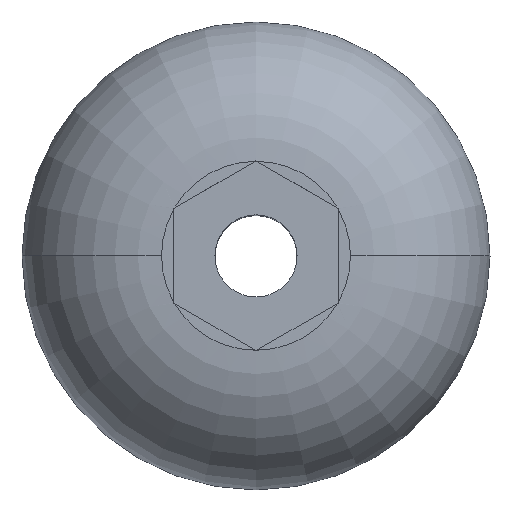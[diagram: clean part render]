
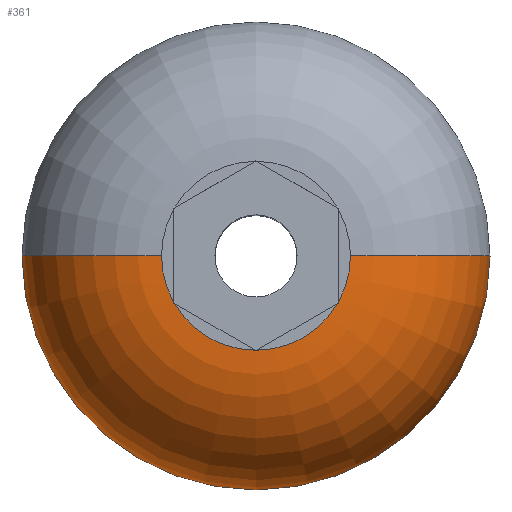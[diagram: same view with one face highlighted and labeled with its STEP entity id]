
A CAD part, top view. The second image highlights one B-rep face of the part: STEP entity #361.
In plain terms, the highlighted toroidal (fillet/blend) face has major radius 1.151 mm and minor radius 1.7 mm.
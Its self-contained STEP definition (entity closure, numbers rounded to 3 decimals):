
#20 = CIRCLE ( 'NONE', #1214, 1.151 ) ;
#27 = ORIENTED_EDGE ( 'NONE', *, *, #1088, .T. ) ;
#44 = DIRECTION ( 'NONE',  ( 0., 0., 1. ) ) ;
#46 = CARTESIAN_POINT ( 'NONE',  ( -1., -0.569, 1.65 ) ) ;
#54 = DIRECTION ( 'NONE',  ( -1., 0., 0. ) ) ;
#72 = VERTEX_POINT ( 'NONE', #117 ) ;
#76 = DIRECTION ( 'NONE',  ( 0., 1., 0. ) ) ;
#106 = CARTESIAN_POINT ( 'NONE',  ( 0.007, -1.151, 1.65 ) ) ;
#109 = VECTOR ( 'NONE', #1496, 1000. ) ;
#117 = CARTESIAN_POINT ( 'NONE',  ( -1., -0.569, 1.65 ) ) ;
#119 = ORIENTED_EDGE ( 'NONE', *, *, #223, .F. ) ;
#159 = B_SPLINE_CURVE_WITH_KNOTS ( 'NONE', 3,
 ( #1086, #321, #1265, #1622 ),
 .UNSPECIFIED., .F., .F.,
 ( 4, 4 ),
 ( 0., 0. ),
 .UNSPECIFIED. ) ;
#175 = AXIS2_PLACEMENT_3D ( 'NONE', #231, #363, #1126 ) ;
#185 = VERTEX_POINT ( 'NONE', #519 ) ;
#190 = VECTOR ( 'NONE', #736, 1000. ) ;
#219 = DIRECTION ( 'NONE',  ( 0., 0., 1. ) ) ;
#223 = EDGE_CURVE ( 'NONE', #1386, #331, #1334, .T. ) ;
#231 = CARTESIAN_POINT ( 'NONE',  ( 0., 0., 0. ) ) ;
#248 = DIRECTION ( 'NONE',  ( 0., 0., 1. ) ) ;
#274 = CARTESIAN_POINT ( 'NONE',  ( 0.993, -0.581, 1.65 ) ) ;
#287 = CARTESIAN_POINT ( 'NONE',  ( 1., -0.577, 1.65 ) ) ;
#288 = ORIENTED_EDGE ( 'NONE', *, *, #1593, .F. ) ;
#290 = CIRCLE ( 'NONE', #291, 1.7 ) ;
#291 = AXIS2_PLACEMENT_3D ( 'NONE', #834, #439, #1205 ) ;
#299 = DIRECTION ( 'NONE',  ( 0., 0., 1. ) ) ;
#321 = CARTESIAN_POINT ( 'NONE',  ( -0.002, -1.153, 1.65 ) ) ;
#331 = VERTEX_POINT ( 'NONE', #274 ) ;
#346 = VERTEX_POINT ( 'NONE', #429 ) ;
#349 = VERTEX_POINT ( 'NONE', #945 ) ;
#352 = CARTESIAN_POINT ( 'NONE',  ( 0., -1.155, 1.65 ) ) ;
#358 = AXIS2_PLACEMENT_3D ( 'NONE', #822, #299, #1207 ) ;
#361 = ADVANCED_FACE ( 'NONE', ( #1018 ), #415, .T. ) ;
#362 = ORIENTED_EDGE ( 'NONE', *, *, #1119, .F. ) ;
#363 = DIRECTION ( 'NONE',  ( 0., 0., 1. ) ) ;
#365 = DIRECTION ( 'NONE',  ( 1., 0., 0. ) ) ;
#367 = ORIENTED_EDGE ( 'NONE', *, *, #892, .F. ) ;
#368 = EDGE_CURVE ( 'NONE', #816, #346, #159, .T. ) ;
#377 = EDGE_CURVE ( 'NONE', #726, #448, #1547, .T. ) ;
#385 = CARTESIAN_POINT ( 'NONE',  ( 1., -0.577, 1.65 ) ) ;
#393 = ORIENTED_EDGE ( 'NONE', *, *, #679, .F. ) ;
#406 = CARTESIAN_POINT ( 'NONE',  ( -1., -0.571, 1.65 ) ) ;
#415 = TOROIDAL_SURFACE ( 'NONE', #358, 1.151, 1.7 ) ;
#419 = CARTESIAN_POINT ( 'NONE',  ( 2.85, 0., 0. ) ) ;
#429 = CARTESIAN_POINT ( 'NONE',  ( -0.007, -1.151, 1.65 ) ) ;
#434 = VECTOR ( 'NONE', #76, 1000. ) ;
#439 = DIRECTION ( 'NONE',  ( 0., -1., 0. ) ) ;
#442 = ORIENTED_EDGE ( 'NONE', *, *, #1077, .T. ) ;
#444 = CARTESIAN_POINT ( 'NONE',  ( 0.995, -0.58, 1.65 ) ) ;
#448 = VERTEX_POINT ( 'NONE', #615 ) ;
#467 = EDGE_CURVE ( 'NONE', #529, #185, #998, .T. ) ;
#519 = CARTESIAN_POINT ( 'NONE',  ( 1.151, 0., 1.65 ) ) ;
#524 = ORIENTED_EDGE ( 'NONE', *, *, #804, .T. ) ;
#525 = AXIS2_PLACEMENT_3D ( 'NONE', #1304, #44, #1442 ) ;
#529 = VERTEX_POINT ( 'NONE', #1272 ) ;
#615 = CARTESIAN_POINT ( 'NONE',  ( -0.993, -0.581, 1.65 ) ) ;
#643 = ORIENTED_EDGE ( 'NONE', *, *, #368, .T. ) ;
#679 = EDGE_CURVE ( 'NONE', #1478, #529, #1262, .T. ) ;
#685 = CARTESIAN_POINT ( 'NONE',  ( -1., -0.573, 1.65 ) ) ;
#702 = CARTESIAN_POINT ( 'NONE',  ( 0., 0., 1.65 ) ) ;
#703 = CARTESIAN_POINT ( 'NONE',  ( 0.993, -0.581, 1.65 ) ) ;
#726 = VERTEX_POINT ( 'NONE', #1171 ) ;
#732 = ORIENTED_EDGE ( 'NONE', *, *, #377, .F. ) ;
#736 = DIRECTION ( 'NONE',  ( 0.866, -0.5, 0. ) ) ;
#750 = EDGE_LOOP ( 'NONE', ( #362, #1538, #27, #776, #393, #442, #119, #367, #643, #1195, #732, #524, #288 ) ) ;
#776 = ORIENTED_EDGE ( 'NONE', *, *, #467, .F. ) ;
#804 = EDGE_CURVE ( 'NONE', #726, #72, #1189, .T. ) ;
#816 = VERTEX_POINT ( 'NONE', #1071 ) ;
#822 = CARTESIAN_POINT ( 'NONE',  ( 0., 0., -0.05 ) ) ;
#826 = CARTESIAN_POINT ( 'NONE',  ( -1.151, 0., -0.05 ) ) ;
#833 = DIRECTION ( 'NONE',  ( 0., 0., 1. ) ) ;
#834 = CARTESIAN_POINT ( 'NONE',  ( 1.151, 0., -0.05 ) ) ;
#846 = CARTESIAN_POINT ( 'NONE',  ( 1., -0.577, 1.65 ) ) ;
#853 = AXIS2_PLACEMENT_3D ( 'NONE', #1139, #219, #365 ) ;
#892 = EDGE_CURVE ( 'NONE', #816, #1386, #1545, .T. ) ;
#927 = CARTESIAN_POINT ( 'NONE',  ( -1.151, 0., 1.65 ) ) ;
#929 = B_SPLINE_CURVE_WITH_KNOTS ( 'NONE', 3,
 ( #287, #1329, #444, #703 ),
 .UNSPECIFIED., .F., .F.,
 ( 4, 4 ),
 ( 0., 0. ),
 .UNSPECIFIED. ) ;
#945 = CARTESIAN_POINT ( 'NONE',  ( -2.85, 0., 0. ) ) ;
#953 = DIRECTION ( 'NONE',  ( 1., 0., 0. ) ) ;
#998 = CIRCLE ( 'NONE', #853, 1.151 ) ;
#1018 = FACE_OUTER_BOUND ( 'NONE', #750, .T. ) ;
#1020 = DIRECTION ( 'NONE',  ( 1., 0., 0. ) ) ;
#1071 = CARTESIAN_POINT ( 'NONE',  ( 0., -1.155, 1.65 ) ) ;
#1077 = EDGE_CURVE ( 'NONE', #1478, #331, #929, .T. ) ;
#1086 = CARTESIAN_POINT ( 'NONE',  ( 0., -1.155, 1.65 ) ) ;
#1088 = EDGE_CURVE ( 'NONE', #1564, #185, #290, .T. ) ;
#1118 = CIRCLE ( 'NONE', #175, 2.85 ) ;
#1119 = EDGE_CURVE ( 'NONE', #349, #1544, #1528, .T. ) ;
#1126 = DIRECTION ( 'NONE',  ( 1., 0., 0. ) ) ;
#1139 = CARTESIAN_POINT ( 'NONE',  ( 0., 0., 1.65 ) ) ;
#1161 = CIRCLE ( 'NONE', #1412, 1.151 ) ;
#1171 = CARTESIAN_POINT ( 'NONE',  ( -1., -0.577, 1.65 ) ) ;
#1189 = B_SPLINE_CURVE_WITH_KNOTS ( 'NONE', 3,
 ( #1327, #1319, #685, #406, #46 ),
 .UNSPECIFIED., .F., .F.,
 ( 4, 1, 4 ),
 ( 0.014, 0.014, 0.014 ),
 .UNSPECIFIED. ) ;
#1195 = ORIENTED_EDGE ( 'NONE', *, *, #1318, .F. ) ;
#1205 = DIRECTION ( 'NONE',  ( 0., 0., -1. ) ) ;
#1207 = DIRECTION ( 'NONE',  ( 1., 0., 0. ) ) ;
#1214 = AXIS2_PLACEMENT_3D ( 'NONE', #702, #833, #953 ) ;
#1262 = LINE ( 'NONE', #846, #434 ) ;
#1265 = CARTESIAN_POINT ( 'NONE',  ( -0.005, -1.152, 1.65 ) ) ;
#1272 = CARTESIAN_POINT ( 'NONE',  ( 1., -0.569, 1.65 ) ) ;
#1304 = CARTESIAN_POINT ( 'NONE',  ( 0., 0., 1.65 ) ) ;
#1318 = EDGE_CURVE ( 'NONE', #448, #346, #1161, .T. ) ;
#1319 = CARTESIAN_POINT ( 'NONE',  ( -1., -0.576, 1.65 ) ) ;
#1327 = CARTESIAN_POINT ( 'NONE',  ( -1., -0.577, 1.65 ) ) ;
#1329 = CARTESIAN_POINT ( 'NONE',  ( 0.998, -0.579, 1.65 ) ) ;
#1330 = EDGE_CURVE ( 'NONE', #349, #1564, #1118, .T. ) ;
#1334 = CIRCLE ( 'NONE', #525, 1.151 ) ;
#1352 = DIRECTION ( 'NONE',  ( 0., 1., 0. ) ) ;
#1386 = VERTEX_POINT ( 'NONE', #106 ) ;
#1412 = AXIS2_PLACEMENT_3D ( 'NONE', #1627, #248, #1020 ) ;
#1442 = DIRECTION ( 'NONE',  ( 1., 0., 0. ) ) ;
#1478 = VERTEX_POINT ( 'NONE', #385 ) ;
#1496 = DIRECTION ( 'NONE',  ( 0.866, 0.5, 0. ) ) ;
#1504 = CARTESIAN_POINT ( 'NONE',  ( -1., -0.577, 1.65 ) ) ;
#1528 = CIRCLE ( 'NONE', #1574, 1.7 ) ;
#1538 = ORIENTED_EDGE ( 'NONE', *, *, #1330, .T. ) ;
#1544 = VERTEX_POINT ( 'NONE', #927 ) ;
#1545 = LINE ( 'NONE', #352, #109 ) ;
#1547 = LINE ( 'NONE', #1504, #190 ) ;
#1564 = VERTEX_POINT ( 'NONE', #419 ) ;
#1574 = AXIS2_PLACEMENT_3D ( 'NONE', #826, #1352, #54 ) ;
#1593 = EDGE_CURVE ( 'NONE', #1544, #72, #20, .T. ) ;
#1622 = CARTESIAN_POINT ( 'NONE',  ( -0.007, -1.151, 1.65 ) ) ;
#1627 = CARTESIAN_POINT ( 'NONE',  ( 0., 0., 1.65 ) ) ;
